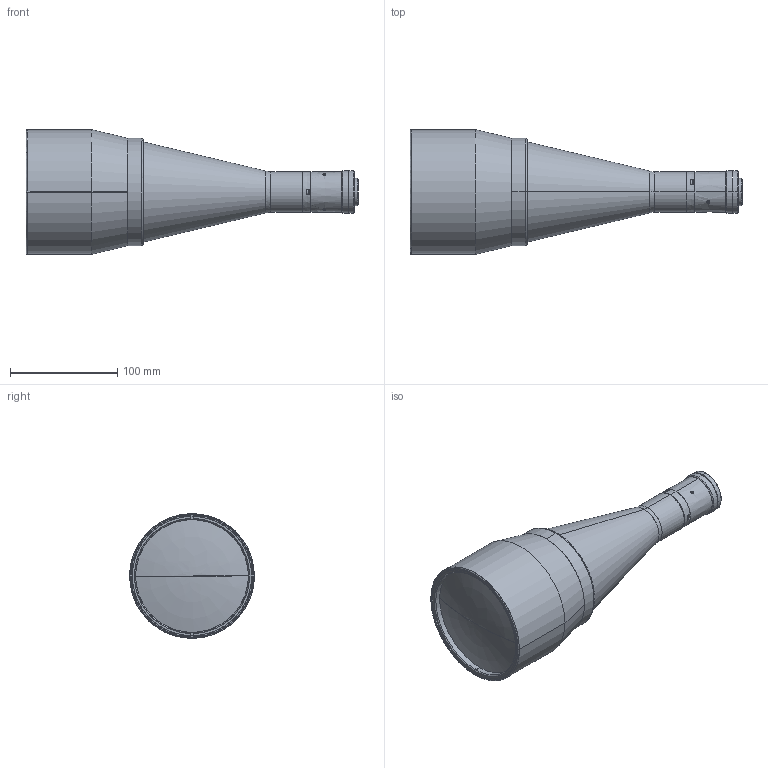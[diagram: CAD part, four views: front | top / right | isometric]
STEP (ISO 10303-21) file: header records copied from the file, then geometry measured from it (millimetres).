
FILE_DESCRIPTION(('LS-TCL-0229'),'2;1');
FILE_NAME('LS-TCL-0229.stp','2026-10-15T21:54:52',('LumaSpec Vision'),('LumaSpec Vision'),'LumaSpec Vision','LumaSpec Vision','');
FILE_SCHEMA(('AUTOMOTIVE_DESIGN { 1 0 10303 214 1 1 1 1 }'));
Length unit declared in the file: millimetre
Products named in the file (135): LumaSpec Vision
Assembly tree (134 placements, depth 2):
  LumaSpec Vision
    LumaSpec Vision
    LumaSpec Vision
    LumaSpec Vision
    LumaSpec Vision
    LumaSpec Vision
    LumaSpec Vision
    LumaSpec Vision
    LumaSpec Vision
    LumaSpec Vision
    LumaSpec Vision
    LumaSpec Vision
    LumaSpec Vision
    LumaSpec Vision
    LumaSpec Vision
    LumaSpec Vision
    LumaSpec Vision
    LumaSpec Vision
    LumaSpec Vision
    LumaSpec Vision
    LumaSpec Vision
    LumaSpec Vision
    LumaSpec Vision
    LumaSpec Vision
    LumaSpec Vision
    LumaSpec Vision
    LumaSpec Vision
    LumaSpec Vision
    LumaSpec Vision
    LumaSpec Vision
    LumaSpec Vision
    LumaSpec Vision
    LumaSpec Vision
    LumaSpec Vision
    LumaSpec Vision
    LumaSpec Vision
    LumaSpec Vision
    LumaSpec Vision
    LumaSpec Vision
    LumaSpec Vision
    LumaSpec Vision
    LumaSpec Vision
    LumaSpec Vision
    LumaSpec Vision
    LumaSpec Vision
    LumaSpec Vision
    LumaSpec Vision
    LumaSpec Vision
    LumaSpec Vision
    LumaSpec Vision
    LumaSpec Vision
    LumaSpec Vision
    LumaSpec Vision
    LumaSpec Vision
    LumaSpec Vision
    LumaSpec Vision
    LumaSpec Vision
    LumaSpec Vision
    LumaSpec Vision
    LumaSpec Vision
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Bounding box: 308.95 x 116 x 116 mm (x, y, z)
Surface area: 100852.5 mm2 (no closed solid volume)
Topology: 0 solids, 134 shells, 134 faces, 2982 edges, 2975 vertices
Faces by surface type: bspline 72, revolution 62
Entity records: 48615 total; most frequent: CARTESIAN_POINT 20310, B_SPLINE_CURVE_WITH_KNOTS 5492, ORIENTED_EDGE 2975, EDGE_CURVE 2975, VERTEX_POINT 2975, SURFACE_CURVE 2975, PCURVE 2975, DEFINITIONAL_REPRESENTATION 2975
